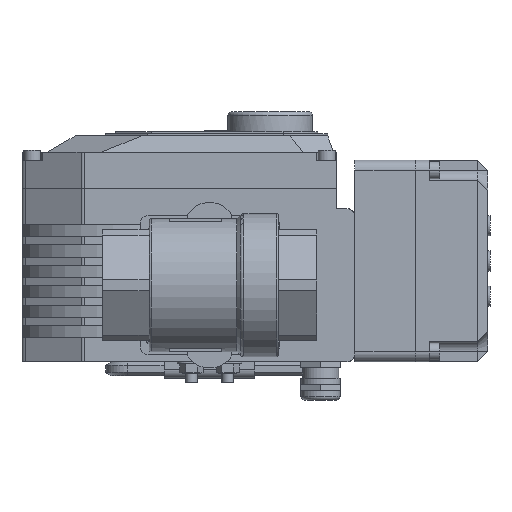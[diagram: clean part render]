
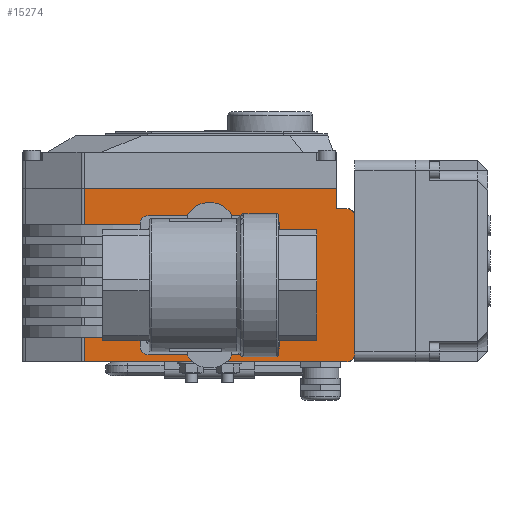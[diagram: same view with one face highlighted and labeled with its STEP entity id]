
A CAD part, front view. The second image highlights one B-rep face of the part: STEP entity #15274.
In plain terms, the highlighted planar face has unit normal (0, -1, 0).
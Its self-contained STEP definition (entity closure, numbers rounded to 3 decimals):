
#10021=DIRECTION('',(1.,0.,0.));
#10022=VECTOR('',#10021,130.189);
#10023=CARTESIAN_POINT('',(-56.,-37.5,0.));
#10024=LINE('',#10023,#10022);
#10686=DIRECTION('',(0.,0.,-1.));
#10687=VECTOR('',#10686,67.);
#10688=CARTESIAN_POINT('',(-21.5,-37.5,-4.5));
#10689=LINE('',#10688,#10687);
#10690=DIRECTION('',(1.,0.,0.));
#10691=VECTOR('',#10690,67.);
#10692=CARTESIAN_POINT('',(-21.5,-37.5,-71.5));
#10693=LINE('',#10692,#10691);
#10694=DIRECTION('',(0.,0.,1.));
#10695=VECTOR('',#10694,3.5);
#10696=CARTESIAN_POINT('',(45.5,-37.5,-71.5));
#10697=LINE('',#10696,#10695);
#10698=DIRECTION('',(-1.,0.,0.));
#10699=VECTOR('',#10698,28.689);
#10700=CARTESIAN_POINT('',(74.189,-37.5,-68.));
#10701=LINE('',#10700,#10699);
#10702=DIRECTION('',(0.,0.,1.));
#10703=VECTOR('',#10702,18.);
#10704=CARTESIAN_POINT('',(74.189,-37.5,-86.));
#10705=LINE('',#10704,#10703);
#10706=CARTESIAN_POINT('',(-56.,-37.5,-72.));
#10707=DIRECTION('',(0.,-1.,0.));
#10708=DIRECTION('',(-1.,0.,0.));
#10709=AXIS2_PLACEMENT_3D('',#10706,#10707,#10708);
#10711=DIRECTION('',(0.,0.,-1.));
#10712=VECTOR('',#10711,68.);
#10713=CARTESIAN_POINT('',(-60.,-37.5,-4.));
#10714=LINE('',#10713,#10712);
#10715=CARTESIAN_POINT('',(-56.,-37.5,-4.));
#10716=DIRECTION('',(0.,-1.,0.));
#10717=DIRECTION('',(0.,0.,1.));
#10718=AXIS2_PLACEMENT_3D('',#10715,#10716,#10717);
#10720=DIRECTION('',(0.,0.,1.));
#10721=VECTOR('',#10720,12.);
#10722=CARTESIAN_POINT('',(74.189,-37.5,-12.));
#10723=LINE('',#10722,#10721);
#10724=DIRECTION('',(-1.,0.,0.));
#10725=VECTOR('',#10724,28.689);
#10726=CARTESIAN_POINT('',(74.189,-37.5,-12.));
#10727=LINE('',#10726,#10725);
#10728=DIRECTION('',(0.,0.,1.));
#10729=VECTOR('',#10728,7.5);
#10730=CARTESIAN_POINT('',(45.5,-37.5,-12.));
#10731=LINE('',#10730,#10729);
#10732=DIRECTION('',(-1.,0.,0.));
#10733=VECTOR('',#10732,67.);
#10734=CARTESIAN_POINT('',(45.5,-37.5,-4.5));
#10735=LINE('',#10734,#10733);
#12685=DIRECTION('',(-1.,0.,0.));
#12686=VECTOR('',#12685,125.189);
#12687=CARTESIAN_POINT('',(74.189,-37.5,-86.));
#12688=LINE('',#12687,#12686);
#12716=DIRECTION('',(0.,0.,-1.));
#12717=VECTOR('',#12716,10.);
#12718=CARTESIAN_POINT('',(-51.,-37.5,-76.));
#12719=LINE('',#12718,#12717);
#12720=DIRECTION('',(1.,0.,0.));
#12721=VECTOR('',#12720,5.);
#12722=CARTESIAN_POINT('',(-56.,-37.5,-76.));
#12723=LINE('',#12722,#12721);
#13445=CARTESIAN_POINT('',(-51.,-37.5,-86.));
#13447=VERTEX_POINT('',#13445);
#13449=CARTESIAN_POINT('',(-51.,-37.5,-76.));
#13451=VERTEX_POINT('',#13449);
#13453=CARTESIAN_POINT('',(-56.,-37.5,0.));
#13454=CARTESIAN_POINT('',(-60.,-37.5,-4.));
#13455=VERTEX_POINT('',#13453);
#13456=VERTEX_POINT('',#13454);
#13465=CARTESIAN_POINT('',(-60.,-37.5,-72.));
#13466=CARTESIAN_POINT('',(-56.,-37.5,-76.));
#13467=VERTEX_POINT('',#13465);
#13468=VERTEX_POINT('',#13466);
#13509=CARTESIAN_POINT('',(74.189,-37.5,0.));
#13511=VERTEX_POINT('',#13509);
#13514=CARTESIAN_POINT('',(74.189,-37.5,-86.));
#13516=VERTEX_POINT('',#13514);
#13669=CARTESIAN_POINT('',(74.189,-37.5,-12.));
#13670=VERTEX_POINT('',#13669);
#13733=CARTESIAN_POINT('',(-21.5,-37.5,-4.5));
#13734=CARTESIAN_POINT('',(-21.5,-37.5,-71.5));
#13735=VERTEX_POINT('',#13733);
#13736=VERTEX_POINT('',#13734);
#13737=CARTESIAN_POINT('',(45.5,-37.5,-71.5));
#13738=VERTEX_POINT('',#13737);
#13739=CARTESIAN_POINT('',(45.5,-37.5,-68.));
#13740=VERTEX_POINT('',#13739);
#13757=CARTESIAN_POINT('',(45.5,-37.5,-4.5));
#13758=VERTEX_POINT('',#13757);
#13759=CARTESIAN_POINT('',(45.5,-37.5,-12.));
#13760=VERTEX_POINT('',#13759);
#14427=CARTESIAN_POINT('',(74.189,-37.5,-68.));
#14428=VERTEX_POINT('',#14427);
#15238=CARTESIAN_POINT('',(-60.,-37.5,0.));
#15239=DIRECTION('',(0.,-1.,0.));
#15240=DIRECTION('',(1.,0.,0.));
#15241=AXIS2_PLACEMENT_3D('',#15238,#15239,#15240);
#15242=PLANE('',#15241);
#15244=ORIENTED_EDGE('',*,*,#15243,.T.);
#15246=ORIENTED_EDGE('',*,*,#15245,.T.);
#15248=ORIENTED_EDGE('',*,*,#15247,.T.);
#15250=ORIENTED_EDGE('',*,*,#15249,.F.);
#15252=ORIENTED_EDGE('',*,*,#15251,.F.);
#15254=ORIENTED_EDGE('',*,*,#15253,.T.);
#15256=ORIENTED_EDGE('',*,*,#15255,.F.);
#15258=ORIENTED_EDGE('',*,*,#15257,.F.);
#15260=ORIENTED_EDGE('',*,*,#15259,.F.);
#15262=ORIENTED_EDGE('',*,*,#15261,.F.);
#15263=ORIENTED_EDGE('',*,*,#15230,.F.);
#15264=ORIENTED_EDGE('',*,*,#14520,.T.);
#15266=ORIENTED_EDGE('',*,*,#15265,.F.);
#15267=ORIENTED_EDGE('',*,*,#14710,.T.);
#15269=ORIENTED_EDGE('',*,*,#15268,.T.);
#15271=ORIENTED_EDGE('',*,*,#15270,.T.);
#15272=EDGE_LOOP('',(#15244,#15246,#15248,#15250,#15252,#15254,#15256,#15258,
#15260,#15262,#15263,#15264,#15266,#15267,#15269,#15271));
#15273=FACE_OUTER_BOUND('',#15272,.F.);
#15274=ADVANCED_FACE('',(#15273),#15242,.T.);
#10710=CIRCLE('',#10709,4.);
#10719=CIRCLE('',#10718,4.);
#14520=EDGE_CURVE('',#13455,#13511,#10024,.T.);
#14710=EDGE_CURVE('',#13670,#13760,#10727,.T.);
#15230=EDGE_CURVE('',#13455,#13456,#10719,.T.);
#15243=EDGE_CURVE('',#13735,#13736,#10689,.T.);
#15245=EDGE_CURVE('',#13736,#13738,#10693,.T.);
#15247=EDGE_CURVE('',#13738,#13740,#10697,.T.);
#15249=EDGE_CURVE('',#14428,#13740,#10701,.T.);
#15251=EDGE_CURVE('',#13516,#14428,#10705,.T.);
#15253=EDGE_CURVE('',#13516,#13447,#12688,.T.);
#15255=EDGE_CURVE('',#13451,#13447,#12719,.T.);
#15257=EDGE_CURVE('',#13468,#13451,#12723,.T.);
#15259=EDGE_CURVE('',#13467,#13468,#10710,.T.);
#15261=EDGE_CURVE('',#13456,#13467,#10714,.T.);
#15265=EDGE_CURVE('',#13670,#13511,#10723,.T.);
#15268=EDGE_CURVE('',#13760,#13758,#10731,.T.);
#15270=EDGE_CURVE('',#13758,#13735,#10735,.T.);
